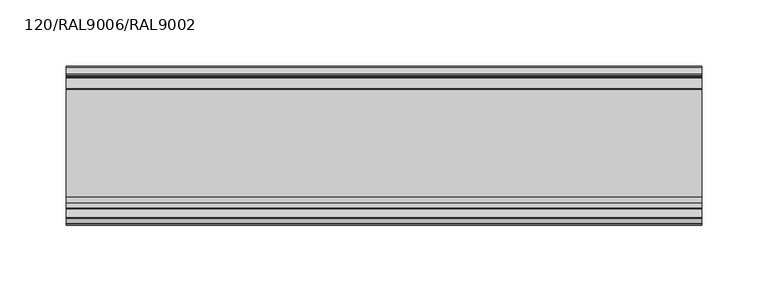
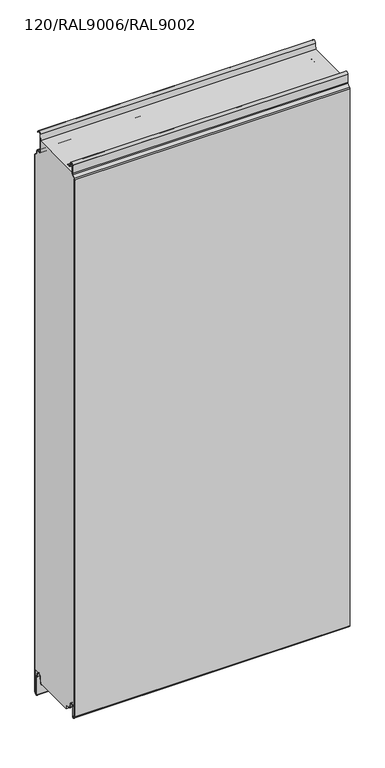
"""IFC4 building model written with IfcOpenShell, lengths in millimetres: plate geometry, TR_C_H_FHL_Panel : 120/RAL9006/RAL9002."""

from ifc_helpers import new_model, si_unit, point, frame, frame_2d, origin, place, context, project, spatial, polyline, circle_curve, trimmed, segment, composite_curve, outline, extrude, source, transform, mapped, element, save


def plate_120_ral9006_ral9002_72948b92(model_context):
    return source(origin(), model_context, "Body", "SweptSolid", [
        extrude(outline(composite_curve([segment(polyline([(-17.4455763, 1000.0), (-17.6, 998.2349288), (-17.6, 979.1)]), True, "CONTINUOUS"), segment(trimmed(circle_curve(frame_2d((-14.8, 979.1)), 2.8), [point((-17.6, 979.1))], [point((-14.8, 976.3))], True, "CARTESIAN"), True, "CONTINUOUS"), segment(polyline([(-14.8, 976.3), (-8.9, 976.3)]), True, "CONTINUOUS"), segment(trimmed(circle_curve(frame_2d((-8.9, 974.4)), 1.9), [point((-8.9, 976.3))], [point((-7.0, 974.4))], False, "CARTESIAN"), True, "CONTINUOUS"), segment(polyline([(-7.0, 974.4), (-7.0, 971.5838835)]), True, "CONTINUOUS"), segment(trimmed(circle_curve(frame_2d((-4.2, 971.5838835)), 2.8), [point((-7.0, 971.5838835))], [point((-6.179899, 969.6039845))], True, "CARTESIAN"), True, "CONTINUOUS"), segment(polyline([(-6.179899, 969.6039845), (-1.3564971, 964.7805826)]), True, "CONTINUOUS"), segment(trimmed(circle_curve(frame_2d((-2.7, 963.4370797)), 1.9), [point((-1.3564971, 964.7805826))], [point((-0.8, 963.4370797))], False, "CARTESIAN"), True, "CONTINUOUS"), segment(polyline([(-0.8, 963.4370797), (-0.8, 15.9993484), (-12.3520294, 15.9993484)]), True, "CONTINUOUS"), segment(trimmed(circle_curve(frame_2d((-12.3520294, 11.0993484)), 4.9), [point((-12.3520294, 15.9993484))], [point((-17.2333835, 11.5264116))], True, "CARTESIAN"), True, "CONTINUOUS"), segment(polyline([(-17.2333835, 11.5264116), (-18.0972969, 1.6518352)]), True, "CONTINUOUS"), segment(trimmed(circle_curve(frame_2d((-19.7908279, 1.8)), 1.7), [point((-18.0972969, 1.6518352))], [point((-19.7908279, 0.1))], False, "CARTESIAN"), True, "CONTINUOUS"), segment(polyline([(-19.7908279, 0.1), (-20.8, 0.0), (-94.86, 0.0), (-94.86, 7.9), (-102.3925589, 7.9)]), True, "CONTINUOUS"), segment(trimmed(circle_curve(frame_2d((-102.3925589, 10.85)), 2.95), [point((-102.3925589, 7.9))], [point((-105.2977418, 10.3377379))], False, "CARTESIAN"), True, "CONTINUOUS"), segment(polyline([(-105.2977418, 10.3377379), (-106.364567, 16.3880048)]), True, "CONTINUOUS"), segment(trimmed(circle_curve(frame_2d((-110.55, 15.65)), 4.25), [point((-106.364567, 16.3880048))], [point((-110.55, 19.9))], True, "CARTESIAN"), True, "CONTINUOUS"), segment(polyline([(-110.55, 19.9), (-119.2, 19.9), (-119.2, 989.8218254)]), True, "CONTINUOUS"), segment(trimmed(circle_curve(frame_2d((-117.0, 989.8218254)), 2.2), [point((-119.2, 989.8218254))], [point((-118.5556349, 991.3774603))], False, "CARTESIAN"), True, "CONTINUOUS"), segment(polyline([(-118.5556349, 991.3774603), (-114.1665476, 995.7665476)]), True, "CONTINUOUS"), segment(trimmed(circle_curve(frame_2d((-116.5, 998.1)), 3.3), [point((-114.1665476, 995.7665476))], [point((-113.2, 998.1))], True, "CARTESIAN"), True, "CONTINUOUS"), segment(polyline([(-113.2, 998.1), (-113.2, 1000.0), (-17.4455763, 1000.0)]), True, "CONTINUOUS")], self_intersect=False)), frame((-240.0, 0.0, 0.0), z_axis=(1.0, 0.0, 0.0), x_axis=(0.0, 1.0, 0.0)), (0.0, 0.0, 1.0), 480.0),
        extrude(outline(composite_curve([segment(polyline([(-0.8, -25.1006169), (-0.8, 963.4370797)]), True, "CONTINUOUS"), segment(trimmed(circle_curve(frame_2d((-2.7, 963.4370797)), 1.9), [point((-0.8, 963.4370797))], [point((-1.3564971, 964.7805826))], True, "CARTESIAN"), True, "CONTINUOUS"), segment(polyline([(-1.3564971, 964.7805826), (-6.179899, 969.6039845)]), True, "CONTINUOUS"), segment(trimmed(circle_curve(frame_2d((-4.2, 971.5838835)), 2.8), [point((-6.179899, 969.6039845))], [point((-7.0, 971.5838835))], False, "CARTESIAN"), True, "CONTINUOUS"), segment(polyline([(-7.0, 971.5838835), (-7.0, 974.4)]), True, "CONTINUOUS"), segment(trimmed(circle_curve(frame_2d((-8.9, 974.4)), 1.9), [point((-7.0, 974.4))], [point((-8.9, 976.3))], True, "CARTESIAN"), True, "CONTINUOUS"), segment(polyline([(-8.9, 976.3), (-14.8, 976.3)]), True, "CONTINUOUS"), segment(trimmed(circle_curve(frame_2d((-14.8, 979.1)), 2.8), [point((-14.8, 976.3))], [point((-17.6, 979.1))], False, "CARTESIAN"), True, "CONTINUOUS"), segment(polyline([(-17.6, 979.1), (-17.6, 998.2349288), (-16.5051936, 1010.748623)]), True, "CONTINUOUS"), segment(trimmed(circle_curve(frame_2d((-12.5204148, 1010.4)), 4.0), [point((-16.5051936, 1010.748623))], [point((-8.7383405, 1011.7022726))], False, "CARTESIAN"), True, "CONTINUOUS"), segment(polyline([(-8.7383405, 1011.7022726), (-8.4287263, 1010.8030877), (-9.1851412, 1010.5426332), (-9.4947554, 1011.4418181)]), True, "CONTINUOUS"), segment(trimmed(circle_curve(frame_2d((-12.5204148, 1010.4)), 3.2), [point((-9.4947554, 1011.4418181))], [point((-15.7082379, 1010.6788984))], True, "CARTESIAN"), True, "CONTINUOUS"), segment(polyline([(-15.7082379, 1010.6788984), (-16.8, 998.2), (-16.8, 979.1)]), True, "CONTINUOUS"), segment(trimmed(circle_curve(frame_2d((-14.8, 979.1)), 2.0), [point((-16.8, 979.1))], [point((-14.8, 977.1))], True, "CARTESIAN"), True, "CONTINUOUS"), segment(polyline([(-14.8, 977.1), (-8.9, 977.1)]), True, "CONTINUOUS"), segment(trimmed(circle_curve(frame_2d((-8.9, 974.4)), 2.7), [point((-8.9, 977.1))], [point((-6.2, 974.4))], False, "CARTESIAN"), True, "CONTINUOUS"), segment(polyline([(-6.2, 974.4), (-6.2, 971.5838835)]), True, "CONTINUOUS"), segment(trimmed(circle_curve(frame_2d((-4.2, 971.5838835)), 2.0), [point((-6.2, 971.5838835))], [point((-5.6142136, 970.1696699))], True, "CARTESIAN"), True, "CONTINUOUS"), segment(polyline([(-5.6142136, 970.1696699), (-0.7908117, 965.346268)]), True, "CONTINUOUS"), segment(trimmed(circle_curve(frame_2d((-2.7, 963.4370797)), 2.7), [point((-0.7908117, 965.346268))], [point((0.0, 963.4370797))], False, "CARTESIAN"), True, "CONTINUOUS"), segment(polyline([(0.0, 963.4370797), (0.0, -25.1006169)]), True, "CONTINUOUS"), segment(trimmed(circle_curve(frame_2d((-2.7, -25.1006169)), 2.7), [point((0.0, -25.1006169))], [point((-0.8586044, -27.0752719))], False, "CARTESIAN"), True, "CONTINUOUS"), segment(polyline([(-0.8586044, -27.0752719), (-2.8042031, -28.889572)]), True, "CONTINUOUS"), segment(trimmed(circle_curve(frame_2d((-4.1, -27.5)), 1.9), [point((-2.8042031, -28.889572))], [point((-6.0, -27.5))], False, "CARTESIAN"), True, "CONTINUOUS"), segment(polyline([(-6.0, -27.5), (-6.0, 4.8267282)]), True, "CONTINUOUS"), segment(trimmed(circle_curve(frame_2d((-8.5, 4.8267282)), 2.5), [point((-6.0, 4.8267282))], [point((-6.1362036, 5.6406486))], True, "CARTESIAN"), True, "CONTINUOUS"), segment(polyline([(-6.1362036, 5.6406486), (-8.4754033, 12.4341779)]), True, "CONTINUOUS"), segment(trimmed(circle_curve(frame_2d((-12.3520294, 11.0993484)), 4.1), [point((-8.4754033, 12.4341779))], [point((-16.4364277, 11.456687))], True, "CARTESIAN"), True, "CONTINUOUS"), segment(polyline([(-16.4364277, 11.456687), (-17.3003412, 1.5821106)]), True, "CONTINUOUS"), segment(trimmed(circle_curve(frame_2d((-19.7908279, 1.8)), 2.5), [point((-17.3003412, 1.5821106))], [point((-19.7908279, -0.7))], False, "CARTESIAN"), True, "CONTINUOUS"), segment(polyline([(-19.7908279, -0.7), (-20.8, -0.7), (-20.8, 0.1), (-19.7908279, 0.1)]), True, "CONTINUOUS"), segment(trimmed(circle_curve(frame_2d((-19.7908279, 1.8)), 1.7), [point((-19.7908279, 0.1))], [point((-18.0972969, 1.6518352))], True, "CARTESIAN"), True, "CONTINUOUS"), segment(polyline([(-18.0972969, 1.6518352), (-17.2333835, 11.5264116)]), True, "CONTINUOUS"), segment(trimmed(circle_curve(frame_2d((-12.3520294, 11.0993484)), 4.9), [point((-17.2333835, 11.5264116))], [point((-7.7189884, 12.6946324))], False, "CARTESIAN"), True, "CONTINUOUS"), segment(polyline([(-7.7189884, 12.6946324), (-5.3797887, 5.9011031)]), True, "CONTINUOUS"), segment(trimmed(circle_curve(frame_2d((-8.5, 4.8267282)), 3.3), [point((-5.3797887, 5.9011031))], [point((-5.2, 4.8267282))], False, "CARTESIAN"), True, "CONTINUOUS"), segment(polyline([(-5.2, 4.8267282), (-5.2, -27.5)]), True, "CONTINUOUS"), segment(trimmed(circle_curve(frame_2d((-4.1, -27.5)), 1.1), [point((-5.2, -27.5))], [point((-3.3498018, -28.3044891))], True, "CARTESIAN"), True, "CONTINUOUS"), segment(polyline([(-3.3498018, -28.3044891), (-1.4042031, -26.4901889)]), True, "CONTINUOUS"), segment(trimmed(circle_curve(frame_2d((-2.7, -25.1006169)), 1.9), [point((-1.4042031, -26.4901889))], [point((-0.8, -25.1006169))], True, "CARTESIAN"), True, "CONTINUOUS")], self_intersect=False)), frame((-240.0, 0.0, 0.0), z_axis=(1.0, 0.0, 0.0), x_axis=(0.0, 1.0, 0.0)), (0.0, 0.0, 1.0), 480.0),
        extrude(outline(composite_curve([segment(polyline([(-99.0, 7.1), (-102.3925589, 7.1)]), True, "CONTINUOUS"), segment(trimmed(circle_curve(frame_2d((-102.3925589, 10.85)), 3.75), [point((-102.3925589, 7.1))], [point((-106.085588, 10.1988193))], False, "CARTESIAN"), True, "CONTINUOUS"), segment(polyline([(-106.085588, 10.1988193), (-107.1524133, 16.2490862)]), True, "CONTINUOUS"), segment(trimmed(circle_curve(frame_2d((-110.55, 15.65)), 3.45), [point((-107.1524133, 16.2490862))], [point((-114.0, 15.65))], True, "CARTESIAN"), True, "CONTINUOUS"), segment(polyline([(-114.0, 15.65), (-114.0, -1.95)]), True, "CONTINUOUS"), segment(trimmed(circle_curve(frame_2d((-115.95, -1.95)), 1.95), [point((-114.0, -1.95))], [point((-117.3288582, -3.3288582))], False, "CARTESIAN"), True, "CONTINUOUS"), segment(polyline([(-117.3288582, -3.3288582), (-119.1945436, -1.4631728)]), True, "CONTINUOUS"), segment(trimmed(circle_curve(frame_2d((-117.25, 0.4813708)), 2.75), [point((-119.1945436, -1.4631728))], [point((-120.0, 0.4813708))], False, "CARTESIAN"), True, "CONTINUOUS"), segment(polyline([(-120.0, 0.4813708), (-120.0, 989.8218254)]), True, "CONTINUOUS"), segment(trimmed(circle_curve(frame_2d((-117.0, 989.8218254)), 3.0), [point((-120.0, 989.8218254))], [point((-119.1213203, 991.9431458))], False, "CARTESIAN"), True, "CONTINUOUS"), segment(polyline([(-119.1213203, 991.9431458), (-114.732233, 996.332233)]), True, "CONTINUOUS"), segment(trimmed(circle_curve(frame_2d((-116.5, 998.1)), 2.5), [point((-114.732233, 996.332233))], [point((-114.0, 998.1))], True, "CARTESIAN"), True, "CONTINUOUS"), segment(polyline([(-114.0, 998.1), (-114.0, 1012.85)]), True, "CONTINUOUS"), segment(trimmed(circle_curve(frame_2d((-110.75, 1012.85)), 3.25), [point((-114.0, 1012.85))], [point((-107.5493748, 1013.4143566))], False, "CARTESIAN"), True, "CONTINUOUS"), segment(polyline([(-107.5493748, 1013.4143566), (-106.8060618, 1009.1988193)]), True, "CONTINUOUS"), segment(trimmed(circle_curve(frame_2d((-103.1130328, 1009.85)), 3.75), [point((-106.8060618, 1009.1988193))], [point((-103.1130328, 1006.1))], True, "CARTESIAN"), True, "CONTINUOUS"), segment(polyline([(-103.1130328, 1006.1), (-99.0, 1006.1), (-99.0, 1005.3), (-103.1130328, 1005.3)]), True, "CONTINUOUS"), segment(trimmed(circle_curve(frame_2d((-103.1130328, 1009.85)), 4.55), [point((-103.1130328, 1005.3))], [point((-107.5939081, 1009.0599008))], False, "CARTESIAN"), True, "CONTINUOUS"), segment(polyline([(-107.5939081, 1009.0599008), (-108.337221, 1013.275438)]), True, "CONTINUOUS"), segment(trimmed(circle_curve(frame_2d((-110.75, 1012.85)), 2.45), [point((-108.337221, 1013.275438))], [point((-113.2, 1012.85))], True, "CARTESIAN"), True, "CONTINUOUS"), segment(polyline([(-113.2, 1012.85), (-113.2, 998.1)]), True, "CONTINUOUS"), segment(trimmed(circle_curve(frame_2d((-116.5, 998.1)), 3.3), [point((-113.2, 998.1))], [point((-114.1665476, 995.7665476))], False, "CARTESIAN"), True, "CONTINUOUS"), segment(polyline([(-114.1665476, 995.7665476), (-118.5556349, 991.3774603)]), True, "CONTINUOUS"), segment(trimmed(circle_curve(frame_2d((-117.0, 989.8218254)), 2.2), [point((-118.5556349, 991.3774603))], [point((-119.2, 989.8218254))], True, "CARTESIAN"), True, "CONTINUOUS"), segment(polyline([(-119.2, 989.8218254), (-119.2, 0.4813708)]), True, "CONTINUOUS"), segment(trimmed(circle_curve(frame_2d((-117.25, 0.4813708)), 1.95), [point((-119.2, 0.4813708))], [point((-118.6288582, -0.8974874))], True, "CARTESIAN"), True, "CONTINUOUS"), segment(polyline([(-118.6288582, -0.8974874), (-116.7631728, -2.7631728)]), True, "CONTINUOUS"), segment(trimmed(circle_curve(frame_2d((-115.95, -1.95)), 1.15), [point((-116.7631728, -2.7631728))], [point((-114.8, -1.95))], True, "CARTESIAN"), True, "CONTINUOUS"), segment(polyline([(-114.8, -1.95), (-114.8, 15.65)]), True, "CONTINUOUS"), segment(trimmed(circle_curve(frame_2d((-110.55, 15.65)), 4.25), [point((-114.8, 15.65))], [point((-106.364567, 16.3880048))], False, "CARTESIAN"), True, "CONTINUOUS"), segment(polyline([(-106.364567, 16.3880048), (-105.2977418, 10.3377379)]), True, "CONTINUOUS"), segment(trimmed(circle_curve(frame_2d((-102.3925589, 10.85)), 2.95), [point((-105.2977418, 10.3377379))], [point((-102.3925589, 7.9))], True, "CARTESIAN"), True, "CONTINUOUS"), segment(polyline([(-102.3925589, 7.9), (-99.0, 7.9), (-99.0, 7.1)]), True, "CONTINUOUS")], self_intersect=False)), frame((-240.0, 0.0, 0.0), z_axis=(1.0, 0.0, 0.0), x_axis=(0.0, 1.0, 0.0)), (0.0, 0.0, 1.0), 480.0),
    ])


if __name__ == "__main__":
    model = new_model("IFC4")
    model_context = context("Model", 3, world=origin())
    ifc_project = project(units=[si_unit("LENGTHUNIT", "METRE", prefix="MILLI")], contexts=[model_context])
    site = spatial("IfcSite", under=ifc_project)
    building = spatial("IfcBuilding", under=site)
    placement = place(None, origin())
    plate_120_ral9006_ral9002_shape = plate_120_ral9006_ral9002_72948b92(model_context)
    element("IfcPlate", 1, ObjectType="TR_C_H_FHL_Panel : 120/RAL9006/RAL9002", at=placement, inside=building, context=model_context, shape_type="MappedRepresentation", body=[
        mapped(plate_120_ral9006_ral9002_shape, transform((0.0, 0.0, 0.0), x_axis=(1.0, 0.0, 0.0), y_axis=(0.0, 1.0, 0.0), z_axis=(0.0, 0.0, 1.0))),
    ])
    save(model, "model.ifc")
